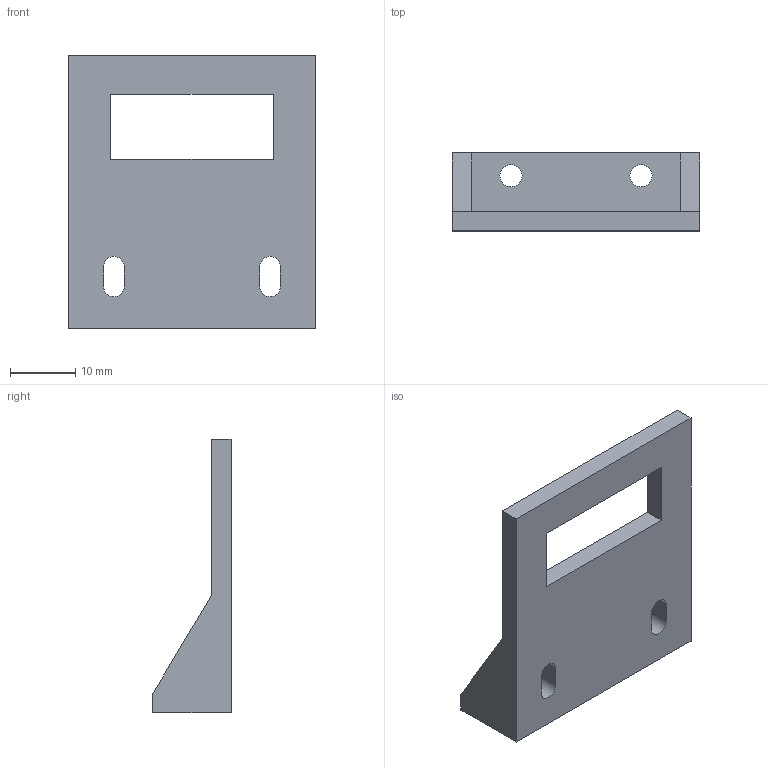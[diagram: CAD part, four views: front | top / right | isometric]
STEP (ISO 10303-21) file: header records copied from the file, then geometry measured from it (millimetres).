
FILE_DESCRIPTION(('FreeCAD Model'),'2;1');
FILE_NAME('Open CASCADE Shape Model','2026-10-15T23:35:51',('FreeCAD'),( 'FreeCAD'),'Open CASCADE STEP processor 7.8','FreeCAD','Unknown');
FILE_SCHEMA(('AUTOMOTIVE_DESIGN { 1 0 10303 214 1 1 1 1 }'));
Length unit declared in the file: millimetre
Products named in the file (1): Open CASCADE STEP translator 7.8 7
Bounding box: 38 x 12 x 42 mm (x, y, z)
Volume: 5308.7 mm3; surface area: 4404.5 mm2
Topology: 1 solids, 1 shells, 26 faces, 70 edges, 46 vertices
Faces by surface type: plane 20, cylinder 6
Full cylindrical faces by diameter (mm): 3.4 x2
Entity records: 840 total; most frequent: CARTESIAN_POINT 143, ORIENTED_EDGE 140, DIRECTION 136, EDGE_CURVE 70, LINE 58, VECTOR 58, VERTEX_POINT 46, AXIS2_PLACEMENT_3D 39
